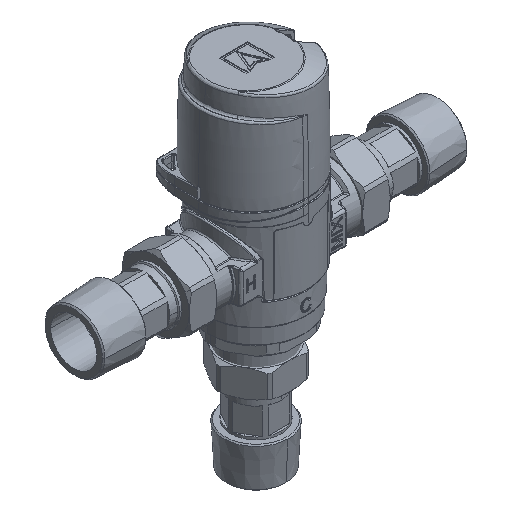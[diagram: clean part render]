
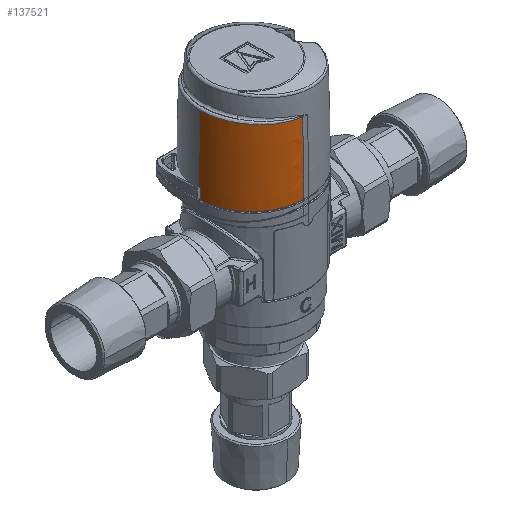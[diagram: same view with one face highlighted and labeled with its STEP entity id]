
A CAD part, isometric view. The second image highlights one B-rep face of the part: STEP entity #137521.
In plain terms, the highlighted toroidal (fillet/blend) face has major radius 1063.64 mm and minor radius 1085.24 mm.
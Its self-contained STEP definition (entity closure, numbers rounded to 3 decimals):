
#187 = CARTESIAN_POINT ( 'NONE',  ( 23.13, 0., 31.733 ) ) ;
#2326 = CARTESIAN_POINT ( 'NONE',  ( -1061.644, 0., -0.2 ) ) ;
#3021 = DIRECTION ( 'NONE',  ( 0., -1., 0. ) ) ;
#5312 = CARTESIAN_POINT ( 'NONE',  ( 13.775, 17.743, 30.742 ) ) ;
#5753 = DIRECTION ( 'NONE',  ( -1., 0., 0. ) ) ;
#6527 = CARTESIAN_POINT ( 'NONE',  ( 23.582, 0.546, 4.762 ) ) ;
#9233 = AXIS2_PLACEMENT_3D ( 'NONE', #46241, #131971, #118297 ) ;
#16437 = DIRECTION ( 'NONE',  ( 0., 0., -1. ) ) ;
#19865 = CARTESIAN_POINT ( 'NONE',  ( 17.027, 15.074, 31.086 ) ) ;
#20208 = CARTESIAN_POINT ( 'NONE',  ( 23.587, 0.1, 5. ) ) ;
#20741 = CARTESIAN_POINT ( 'NONE',  ( 6.124, 20.914, 29.93 ) ) ;
#20852 = VERTEX_POINT ( 'NONE', #187 ) ;
#21903 = EDGE_CURVE ( 'NONE', #28984, #24870, #80591, .T. ) ;
#24870 = VERTEX_POINT ( 'NONE', #144541 ) ;
#28984 = VERTEX_POINT ( 'NONE', #79600 ) ;
#29307 = CARTESIAN_POINT ( 'NONE',  ( 23.592, 0.6, 0.3 ) ) ;
#34487 = CARTESIAN_POINT ( 'NONE',  ( 22.242, 6.189, 31.639 ) ) ;
#40325 = CARTESIAN_POINT ( 'NONE',  ( 23.582, 0.6, 4.5 ) ) ;
#41139 = EDGE_CURVE ( 'NONE', #151960, #177777, #61268, .T. ) ;
#46241 = CARTESIAN_POINT ( 'NONE',  ( 2., 0., -0.2 ) ) ;
#48172 = CARTESIAN_POINT ( 'NONE',  ( 19.212, 12.415, 31.318 ) ) ;
#49084 = CARTESIAN_POINT ( 'NONE',  ( 23.131, 1.399, 31.734 ) ) ;
#52521 = ORIENTED_EDGE ( 'NONE', *, *, #96162, .F. ) ;
#53115 = CARTESIAN_POINT ( 'NONE',  ( 23.592, 0.6, 0.3 ) ) ;
#55289 = EDGE_CURVE ( 'NONE', #28984, #151960, #85585, .T. ) ;
#55471 = AXIS2_PLACEMENT_3D ( 'NONE', #59610, #5753, #3021 ) ;
#56614 = CARTESIAN_POINT ( 'NONE',  ( 2., 0., 5. ) ) ;
#58466 = CIRCLE ( 'NONE', #55471, 1085.244 ) ;
#59610 = CARTESIAN_POINT ( 'NONE',  ( 2., -1063.644, -0.2 ) ) ;
#61268 = B_SPLINE_CURVE_WITH_KNOTS ( 'NONE', 3,
 ( #40325, #77203, #122486, #53115 ),
 .UNSPECIFIED., .F., .F.,
 ( 4, 4 ),
 ( 0., 0.004 ),
 .UNSPECIFIED. ) ;
#65202 = EDGE_LOOP ( 'NONE', ( #150222, #76127, #133910, #131605, #79343, #83949, #52521 ) ) ;
#68957 = AXIS2_PLACEMENT_3D ( 'NONE', #2326, #155646, #97309 ) ;
#69015 = VERTEX_POINT ( 'NONE', #127777 ) ;
#70471 = TOROIDAL_SURFACE ( 'NONE', #9233, -1063.644, 1085.244 ) ;
#71724 = CIRCLE ( 'NONE', #173742, 21.6 ) ;
#75596 = CARTESIAN_POINT ( 'NONE',  ( 10.135, 19.691, 30.356 ) ) ;
#76127 = ORIENTED_EDGE ( 'NONE', *, *, #21903, .F. ) ;
#77203 = CARTESIAN_POINT ( 'NONE',  ( 23.588, 0.6, 3.1 ) ) ;
#79343 = ORIENTED_EDGE ( 'NONE', *, *, #163940, .T. ) ;
#79600 = CARTESIAN_POINT ( 'NONE',  ( 23.587, 0.1, 5. ) ) ;
#80591 = CIRCLE ( 'NONE', #98065, 21.588 ) ;
#83949 = ORIENTED_EDGE ( 'NONE', *, *, #123173, .F. ) ;
#85585 = B_SPLINE_CURVE_WITH_KNOTS ( 'NONE', 3,
 ( #20208, #102456, #170889, #6527, #157190, #156264 ),
 .UNSPECIFIED., .F., .F.,
 ( 4, 2, 4 ),
 ( 0., 0., 0.001 ),
 .UNSPECIFIED. ) ;
#89276 = CARTESIAN_POINT ( 'NONE',  ( 23.13, 0.005, 31.733 ) ) ;
#91429 = DIRECTION ( 'NONE',  ( 1., 0., 0. ) ) ;
#96162 = EDGE_CURVE ( 'NONE', #20852, #69015, #129636, .T. ) ;
#97309 = DIRECTION ( 'NONE',  ( 0., 0., -1. ) ) ;
#98065 = AXIS2_PLACEMENT_3D ( 'NONE', #56614, #16437, #153342 ) ;
#101958 = FACE_OUTER_BOUND ( 'NONE', #65202, .T. ) ;
#102456 = CARTESIAN_POINT ( 'NONE',  ( 23.587, 0.232, 5. ) ) ;
#103892 = CARTESIAN_POINT ( 'NONE',  ( 2., 21.194, 29.493 ) ) ;
#109845 = CIRCLE ( 'NONE', #68957, 1085.244 ) ;
#110356 = EDGE_CURVE ( 'NONE', #24870, #20852, #109845, .T. ) ;
#113494 = CARTESIAN_POINT ( 'NONE',  ( 2., 21.6, 0.3 ) ) ;
#118297 = DIRECTION ( 'NONE',  ( 1., 0., 0. ) ) ;
#119342 = CARTESIAN_POINT ( 'NONE',  ( 3.393, 21.19, 29.641 ) ) ;
#119406 = CARTESIAN_POINT ( 'NONE',  ( 23.582, 0.6, 4.5 ) ) ;
#122486 = CARTESIAN_POINT ( 'NONE',  ( 23.591, 0.6, 1.7 ) ) ;
#123109 = VERTEX_POINT ( 'NONE', #113494 ) ;
#123173 = EDGE_CURVE ( 'NONE', #69015, #123109, #58466, .T. ) ;
#127777 = CARTESIAN_POINT ( 'NONE',  ( 2., 21.194, 29.493 ) ) ;
#129636 = B_SPLINE_CURVE_WITH_KNOTS ( 'NONE', 3,
 ( #174118, #89276, #49084, #160422, #34487, #131215, #144901, #48172, #19865, #5312, #75596, #20741, #119342, #103892 ),
 .UNSPECIFIED., .F., .F.,
 ( 4, 1, 1, 1, 1, 1, 1, 1, 1, 1, 1, 4 ),
 ( 0.5, 0.5, 0.563, 0.594, 0.625, 0.656, 0.688, 0.75, 0.812, 0.875, 0.938, 1. ),
 .UNSPECIFIED. ) ;
#131215 = CARTESIAN_POINT ( 'NONE',  ( 21.542, 8.137, 31.565 ) ) ;
#131605 = ORIENTED_EDGE ( 'NONE', *, *, #41139, .T. ) ;
#131971 = DIRECTION ( 'NONE',  ( 0., 0., 1. ) ) ;
#133910 = ORIENTED_EDGE ( 'NONE', *, *, #55289, .T. ) ;
#137521 = ADVANCED_FACE ( 'NONE', ( #101958 ), #70471, .T. ) ;
#144541 = CARTESIAN_POINT ( 'NONE',  ( 23.588, 0., 5. ) ) ;
#144901 = CARTESIAN_POINT ( 'NONE',  ( 20.656, 10.011, 31.471 ) ) ;
#150222 = ORIENTED_EDGE ( 'NONE', *, *, #110356, .F. ) ;
#151960 = VERTEX_POINT ( 'NONE', #119406 ) ;
#153342 = DIRECTION ( 'NONE',  ( 1., 0., 0. ) ) ;
#155646 = DIRECTION ( 'NONE',  ( 0., -1., 0. ) ) ;
#156264 = CARTESIAN_POINT ( 'NONE',  ( 23.582, 0.6, 4.5 ) ) ;
#157190 = CARTESIAN_POINT ( 'NONE',  ( 23.581, 0.6, 4.632 ) ) ;
#160422 = CARTESIAN_POINT ( 'NONE',  ( 22.925, 3.47, 31.712 ) ) ;
#160779 = CARTESIAN_POINT ( 'NONE',  ( 2., 0., 0.3 ) ) ;
#163940 = EDGE_CURVE ( 'NONE', #177777, #123109, #71724, .T. ) ;
#170889 = CARTESIAN_POINT ( 'NONE',  ( 23.585, 0.361, 4.946 ) ) ;
#173742 = AXIS2_PLACEMENT_3D ( 'NONE', #160779, #175362, #91429 ) ;
#174118 = CARTESIAN_POINT ( 'NONE',  ( 23.13, 0., 31.733 ) ) ;
#175362 = DIRECTION ( 'NONE',  ( 0., 0., 1. ) ) ;
#177777 = VERTEX_POINT ( 'NONE', #29307 ) ;
